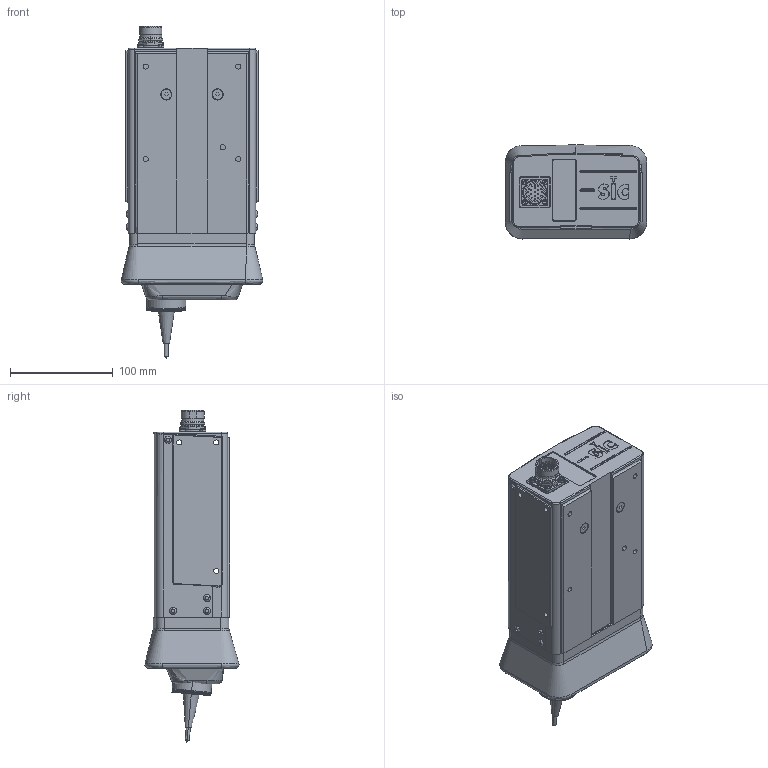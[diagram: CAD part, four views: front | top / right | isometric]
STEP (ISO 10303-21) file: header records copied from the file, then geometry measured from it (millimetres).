
FILE_DESCRIPTION (( 'STEP AP214' ), '1' );
FILE_NAME ('i52 stylet lg80.STEP', '2007-07-26T13:36:47', ( 'Sic Marking' ), ( '' ), 'SwSTEP 2.0', 'SolidWorks 2006303', '' );
FILE_SCHEMA (( 'AUTOMOTIVE_DESIGN' ));
Length unit declared in the file: millimetre
Products named in the file (1): i52 stylet lg80
Bounding box: 137.83 x 91.51 x 322.95 mm (x, y, z)
Surface area: 142936.5 mm2 (no closed solid volume)
Topology: 0 solids, 31 shells, 1013 faces, 3995 edges, 2738 vertices
Faces by surface type: cylinder 430, plane 346, bspline 68, sphere 63, cone 58, torus 48
Entity records: 61972 total; most frequent: CARTESIAN_POINT 17803, DIRECTION 7561, ORIENTED_EDGE 6181, EDGE_CURVE 3915, AXIS2_PLACEMENT_3D 2962, VERTEX_POINT 2700, CIRCLE 2016, VECTOR 1637
